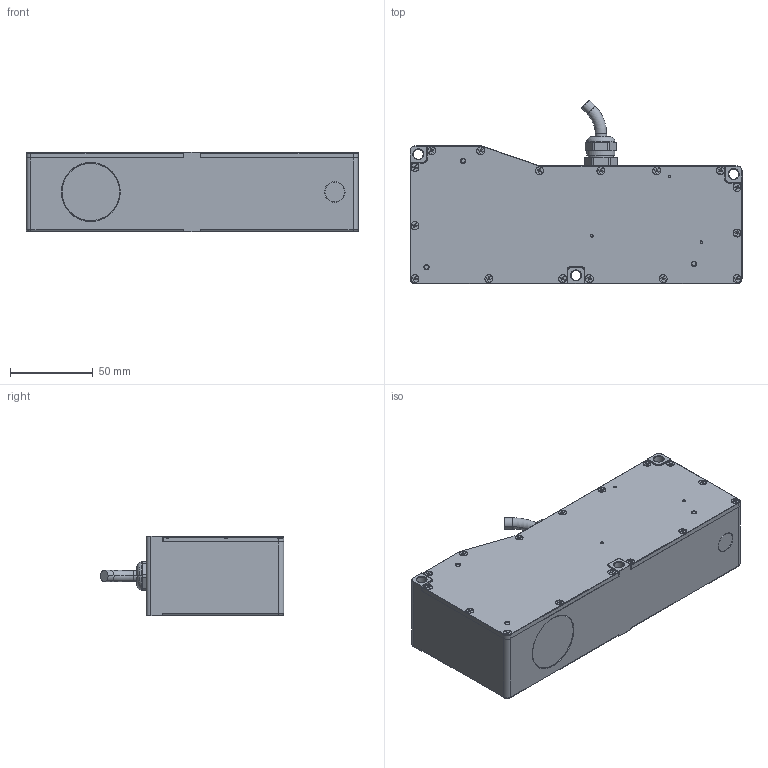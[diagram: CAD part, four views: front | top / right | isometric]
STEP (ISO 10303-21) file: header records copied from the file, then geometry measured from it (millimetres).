
FILE_DESCRIPTION (( 'STEP AP203' ), '1' );
FILE_NAME ('Sensor ILD1710-1000 ; 2585133.STEP', '2012-08-22T12:48:54', ( 'MICRO-EPSILON Optronic GmbH' ), ( 'MICRO-EPSILON Optronic GmbH' ), 'SwSTEP 2.0', 'SolidWorks 2012', '' );
FILE_SCHEMA (( 'CONFIG_CONTROL_DESIGN' ));
Length unit declared in the file: millimetre
Products named in the file (1): Sensor ILD1710-1000 ; 2585133
Bounding box: 200 x 110.58 x 48 mm (x, y, z)
Volume: 174563 mm3; surface area: 129619.4 mm2
Topology: 36 solids, 36 shells, 1742 faces, 4193 edges, 2509 vertices
Faces by surface type: plane 756, cylinder 516, cone 397, torus 68, sphere 4, bspline 1
Entity records: 50280 total; most frequent: CARTESIAN_POINT 9378, DIRECTION 9035, ORIENTED_EDGE 8234, EDGE_CURVE 4117, AXIS2_PLACEMENT_3D 3436, VERTEX_POINT 2509, LINE 2163, VECTOR 2163
